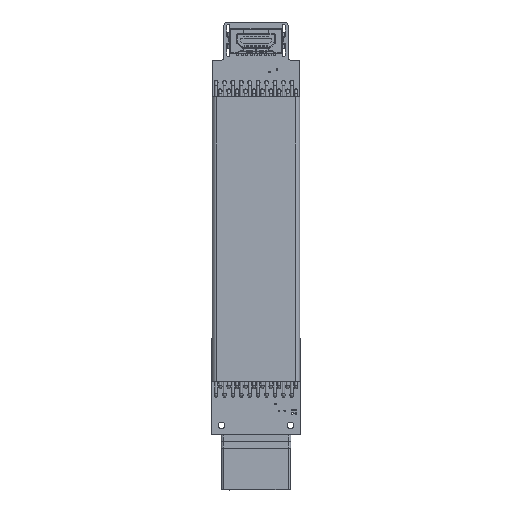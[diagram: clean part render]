
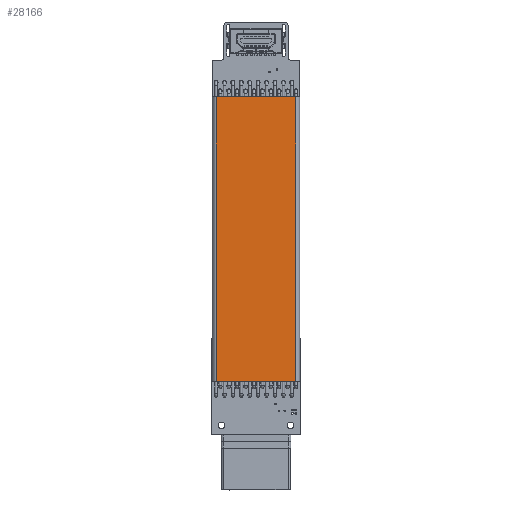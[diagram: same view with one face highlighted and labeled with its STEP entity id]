
A CAD part, top view. The second image highlights one B-rep face of the part: STEP entity #28166.
In plain terms, the highlighted planar face has unit normal (0, 0, 1) as drawn and (0, 1, 0) by its records, which use the part's own axes.
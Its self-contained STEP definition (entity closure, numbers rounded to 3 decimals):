
#28138 = VERTEX_POINT('',#28139);
#28139 = CARTESIAN_POINT('',(0.,0.,
    0.));
#28146 = EDGE_CURVE('',#28147,#28138,#28149,.T.);
#28147 = VERTEX_POINT('',#28148);
#28148 = CARTESIAN_POINT('',(0.,0.,
    -43.));
#28149 = LINE('',#28150,#28151);
#28150 = CARTESIAN_POINT('',(0.,0.,
    -43.));
#28151 = VECTOR('',#28152,1.);
#28152 = DIRECTION('',(0.,0.,1.));
#28166 = ADVANCED_FACE('',(#28167),#28192,.T.);
#28167 = FACE_BOUND('',#28168,.T.);
#28168 = EDGE_LOOP('',(#28169,#28177,#28185,#28191));
#28169 = ORIENTED_EDGE('',*,*,#28170,.F.);
#28170 = EDGE_CURVE('',#28171,#28138,#28173,.T.);
#28171 = VERTEX_POINT('',#28172);
#28172 = CARTESIAN_POINT('',(12.065,0.,0.
    ));
#28173 = LINE('',#28174,#28175);
#28174 = CARTESIAN_POINT('',(0.,0.,
    0.));
#28175 = VECTOR('',#28176,1.);
#28176 = DIRECTION('',(-1.,0.,0.));
#28177 = ORIENTED_EDGE('',*,*,#28178,.F.);
#28178 = EDGE_CURVE('',#28179,#28171,#28181,.T.);
#28179 = VERTEX_POINT('',#28180);
#28180 = CARTESIAN_POINT('',(12.065,0.,-43.));
#28181 = LINE('',#28182,#28183);
#28182 = CARTESIAN_POINT('',(12.065,0.,-43.));
#28183 = VECTOR('',#28184,1.);
#28184 = DIRECTION('',(0.,0.,1.));
#28185 = ORIENTED_EDGE('',*,*,#28186,.T.);
#28186 = EDGE_CURVE('',#28179,#28147,#28187,.T.);
#28187 = LINE('',#28188,#28189);
#28188 = CARTESIAN_POINT('',(0.,0.,
    -43.));
#28189 = VECTOR('',#28190,1.);
#28190 = DIRECTION('',(-1.,0.,0.));
#28191 = ORIENTED_EDGE('',*,*,#28146,.T.);
#28192 = PLANE('',#28193);
#28193 = AXIS2_PLACEMENT_3D('',#28194,#28195,#28196);
#28194 = CARTESIAN_POINT('',(0.,0.,
    -43.));
#28195 = DIRECTION('',(0.,1.,0.));
#28196 = DIRECTION('',(0.,0.,1.));
